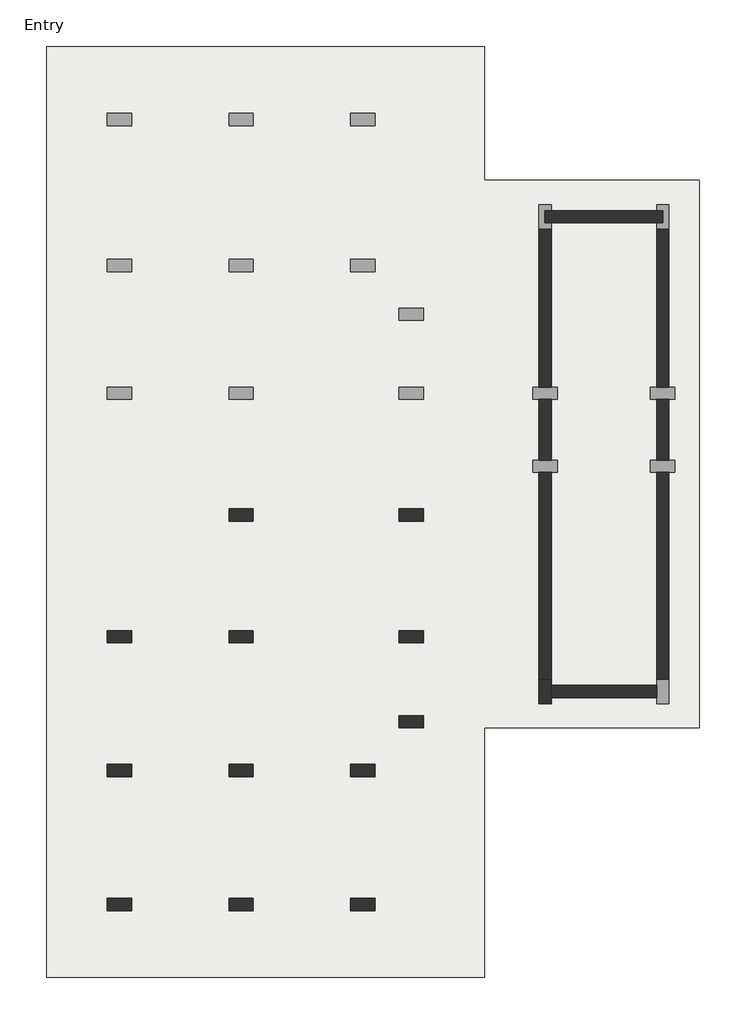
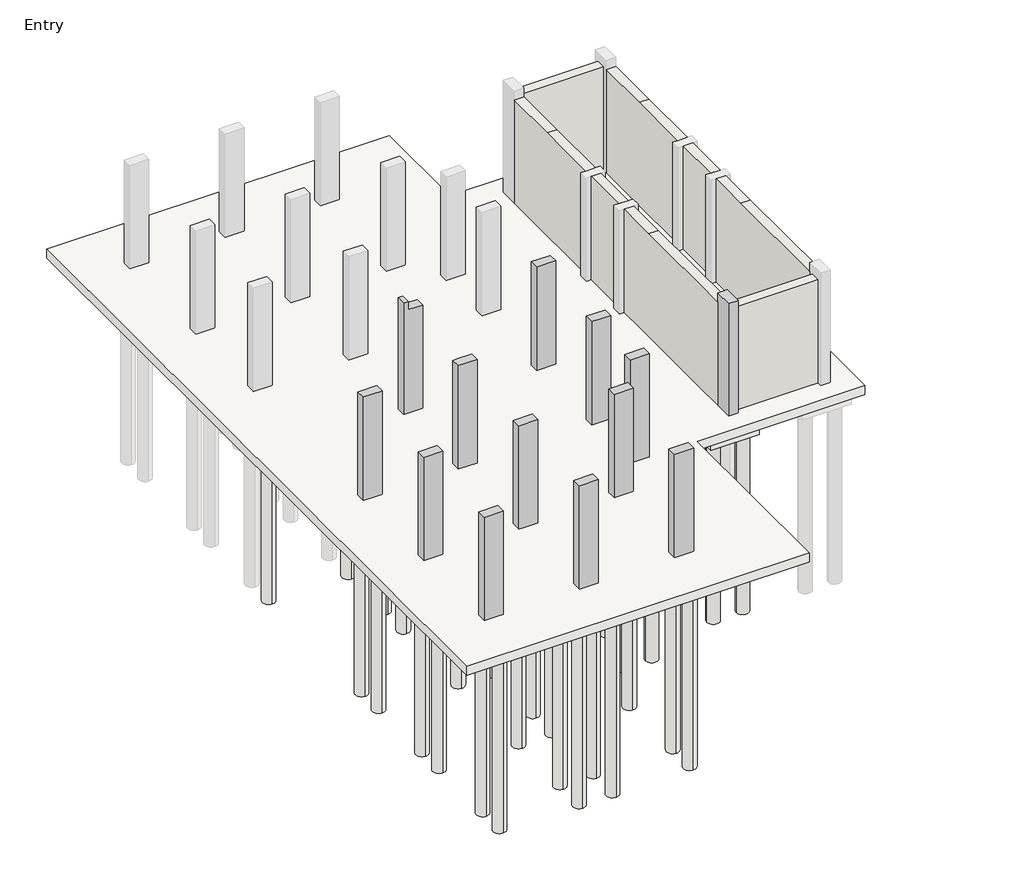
# One storey, part 1 of 2: 52 slabs, 13 columns, 8 walls.
"""IFC4 building model written with IfcOpenShell, lengths in millimetres."""

from ifc_helpers import new_model, si_unit, point, frame, frame_2d, origin, origin_with_axes, place, context, project, spatial, polyline, circle_curve, trimmed, segment, composite_curve, outline, extrude, faceted_brep, element, save

model = new_model("IFC4")

# Units and contexts
model_context = context("Model", 3, world=origin())
ifc_project = project(units=[si_unit("LENGTHUNIT", "METRE", prefix="MILLI")], contexts=[model_context])

# Site, building, storey
site = spatial("IfcSite", under=ifc_project)
building = spatial("IfcBuilding", under=site)
storey = spatial("IfcBuildingStorey", under=building, Name="Entry", Elevation=0.0)

# Columns
placement = place(None, origin())
element("IfcColumn", 1, ObjectType="Concrete-Rectangular-Column : 12 x 24", at=placement, inside=storey, context=model_context, shape_type="SweptSolid", body=[
    extrude(outline(polyline([(0.0, -25837.8572388), (0.0, -25228.2572388), (3505.2, -25228.2572388), (3505.2, -25685.4572388), (3784.6, -25685.4572388), (3784.6, -25837.8572388), (0.0, -25837.8572388)])), frame((0.0, 12810.8740068, 0.0), z_axis=(0.0, 1.0, 0.0), x_axis=(0.0, 0.0, 1.0)), (0.0, 0.0, 1.0), 304.8),
])
element("IfcColumn", 2, ObjectType="Concrete-Rectangular-Column : 12 x 24", at=placement, inside=storey, context=model_context, shape_type="SweptSolid", body=[
    extrude(outline(polyline([(-21570.6572388, 13115.6740068), (-20961.0572388, 13115.6740068), (-20961.0572388, 12810.8740068), (-21570.6572388, 12810.8740068), (-21570.6572388, 13115.6740068)])), origin_with_axes(), (0.0, 0.0, 1.0), 3505.2),
])
element("IfcColumn", 3, ObjectType="Concrete-Rectangular-Column : 12 x 24", at=placement, inside=storey, context=model_context, shape_type="SweptSolid", body=[
    extrude(outline(polyline([(-28885.8572388, 10067.6740068), (-28276.2572388, 10067.6740068), (-28276.2572388, 9762.8740068), (-28885.8572388, 9762.8740068), (-28885.8572388, 10067.6740068)])), origin_with_axes(), (0.0, 0.0, 1.0), 3505.2),
])
element("IfcColumn", 4, ObjectType="Concrete-Rectangular-Column : 12 x 24", at=placement, inside=storey, context=model_context, shape_type="Brep", body=[
    faceted_brep([(-25837.8572388, 10067.6740068, 0.0), (-25228.2572388, 10067.6740068, 0.0), (-25228.2572388, 9762.8740068, 0.0), (-25837.8572388, 9762.8740068, 0.0), (-25837.8572388, 10067.6740068, 3505.2), (-25685.4572388, 10067.6740068, 3505.2), (-25228.2572388, 10067.6740068, 3505.2), (-25228.2572388, 9762.8740068, 3505.2), (-25837.8572388, 9762.8740068, 3505.2)], [[[0, 1, 2, 3]], [[1, 0, 4, 5, 6]], [[2, 1, 6, 7]], [[3, 2, 7, 8]], [[0, 3, 8, 4]], [[6, 5, 4, 8, 7]]]),
])
element("IfcColumn", 5, ObjectType="Concrete-Rectangular-Column : 12 x 24", at=placement, inside=storey, context=model_context, shape_type="SweptSolid", body=[
    extrude(outline(polyline([(-21570.6572388, 10067.6740068), (-20961.0572388, 10067.6740068), (-20961.0572388, 9762.8740068), (-21570.6572388, 9762.8740068), (-21570.6572388, 10067.6740068)])), origin_with_axes(), (0.0, 0.0, 1.0), 3505.2),
])
element("IfcColumn", 6, ObjectType="Concrete-Rectangular-Column : 12 x 24", at=placement, inside=storey, context=model_context, shape_type="SweptSolid", body=[
    extrude(outline(polyline([(-21570.6572388, 7934.0740068), (-20961.0572388, 7934.0740068), (-20961.0572388, 7629.2740068), (-21570.6572388, 7629.2740068), (-21570.6572388, 7934.0740068)])), origin_with_axes(), (0.0, 0.0, 1.0), 3505.2),
])
element("IfcColumn", 7, ObjectType="Concrete-Rectangular-Column : 12 x 24", at=placement, inside=storey, context=model_context, shape_type="SweptSolid", body=[
    extrude(outline(polyline([(-28885.8572388, 6714.8740068), (-28276.2572388, 6714.8740068), (-28276.2572388, 6410.0740068), (-28885.8572388, 6410.0740068), (-28885.8572388, 6714.8740068)])), origin_with_axes(), (0.0, 0.0, 1.0), 3505.2),
])
element("IfcColumn", 8, ObjectType="Concrete-Rectangular-Column : 12 x 24", at=placement, inside=storey, context=model_context, shape_type="SweptSolid", body=[
    extrude(outline(polyline([(-25837.8572388, 6714.8740068), (-25228.2572388, 6714.8740068), (-25228.2572388, 6410.0740068), (-25837.8572388, 6410.0740068), (-25837.8572388, 6714.8740068)])), origin_with_axes(), (0.0, 0.0, 1.0), 3505.2),
])
element("IfcColumn", 9, ObjectType="Concrete-Rectangular-Column : 12 x 24", at=placement, inside=storey, context=model_context, shape_type="SweptSolid", body=[
    extrude(outline(polyline([(-22789.8572388, 6714.8740068), (-22180.2572388, 6714.8740068), (-22180.2572388, 6410.0740068), (-22789.8572388, 6410.0740068), (-22789.8572388, 6714.8740068)])), origin_with_axes(), (0.0, 0.0, 1.0), 3505.2),
])
element("IfcColumn", 10, ObjectType="Concrete-Rectangular-Column : 12 x 24", at=placement, inside=storey, context=model_context, shape_type="SweptSolid", body=[
    extrude(outline(polyline([(-28885.8572388, 3362.0740068), (-28276.2572388, 3362.0740068), (-28276.2572388, 3057.2740068), (-28885.8572388, 3057.2740068), (-28885.8572388, 3362.0740068)])), origin_with_axes(), (0.0, 0.0, 1.0), 3505.2),
])
element("IfcColumn", 11, ObjectType="Concrete-Rectangular-Column : 12 x 24", at=placement, inside=storey, context=model_context, shape_type="SweptSolid", body=[
    extrude(outline(polyline([(-25837.8572388, 3362.0740068), (-25228.2572388, 3362.0740068), (-25228.2572388, 3057.2740068), (-25837.8572388, 3057.2740068), (-25837.8572388, 3362.0740068)])), origin_with_axes(), (0.0, 0.0, 1.0), 3505.2),
])
element("IfcColumn", 12, ObjectType="Concrete-Rectangular-Column : 12 x 24", at=placement, inside=storey, context=model_context, shape_type="SweptSolid", body=[
    extrude(outline(polyline([(-22789.8572388, 3362.0740068), (-22180.2572388, 3362.0740068), (-22180.2572388, 3057.2740068), (-22789.8572388, 3057.2740068), (-22789.8572388, 3362.0740068)])), origin_with_axes(), (0.0, 0.0, 1.0), 3505.2),
])
element("IfcColumn", 13, ObjectType="Concrete-Rectangular-Column : 12 x 24", at=placement, inside=storey, context=model_context, shape_type="Brep", body=[
    faceted_brep([(-18065.4572388, 8238.8740068, 0.0), (-18065.4572388, 8848.4740068, 0.0), (-17760.6572388, 8848.4740068, 0.0), (-17760.6572388, 8696.0740068, 0.0), (-17760.6572388, 8391.2740068, 0.0), (-17760.6572388, 8238.8740068, 0.0), (-18065.4572388, 8238.8740068, 3810.0), (-18065.4572388, 8848.4740068, 3810.0), (-18065.4572388, 8848.4740068, 3505.2), (-17760.6572388, 8848.4740068, 3810.0), (-17760.6572388, 8848.4740068, 3505.2), (-17760.6572388, 8238.8740068, 3810.0)], [[[0, 1, 2, 3, 4, 5]], [[6, 7, 8, 1, 0]], [[7, 9, 10, 2, 1, 8]], [[9, 11, 5, 4, 3, 2, 10]], [[11, 6, 0, 5]], [[6, 11, 9, 7]]]),
])

# Slabs
element("IfcSlab", 14, ObjectType="12\" Foundation Slab", at=placement, inside=storey, context=model_context, shape_type="SweptSolid", body=[
    extrude(outline(polyline([(-19437.0572388, 24698.0740068), (-19437.0572388, 21345.2740068), (-14052.2572388, 21345.2740068), (-14052.2572388, 7629.2740068), (-19437.0572388, 7629.2740068), (-19437.0572388, 1380.8740068), (-30409.8572388, 1380.8740068), (-30409.8572388, 24698.0740068), (-19437.0572388, 24698.0740068)])), frame((0.0, 0.0, -304.8), z_axis=(0.0, 0.0, 1.0), x_axis=(1.0, 0.0, 0.0)), (0.0, 0.0, 1.0), 304.8),
])
element("IfcSlab", 15, ObjectType="Pile Cap-2 Pile : 31\"x61\"x35\"", at=placement, inside=storey, context=model_context, shape_type="SweptSolid", body=[
    extrude(outline(polyline([(-28987.4572388, 10689.9740068), (-28174.6572388, 10689.9740068), (-28174.6572388, 9140.5740068), (-28987.4572388, 9140.5740068), (-28987.4572388, 10689.9740068)])), frame((0.0, 0.0, -889.0), z_axis=(0.0, 0.0, 1.0), x_axis=(1.0, 0.0, 0.0)), (0.0, 0.0, 1.0), 584.2),
])
element("IfcSlab", 16, ObjectType="Pile Cap-2 Pile : 31\"x61\"x35\"", at=placement, inside=storey, context=model_context, shape_type="SweptSolid", body=[
    extrude(outline(polyline([(-28987.4572388, 7337.1740068), (-28174.6572388, 7337.1740068), (-28174.6572388, 5787.7740068), (-28987.4572388, 5787.7740068), (-28987.4572388, 7337.1740068)])), frame((0.0, 0.0, -889.0), z_axis=(0.0, 0.0, 1.0), x_axis=(1.0, 0.0, 0.0)), (0.0, 0.0, 1.0), 584.2),
])
element("IfcSlab", 17, ObjectType="Pile Cap-2 Pile : 31\"x61\"x35\"", at=placement, inside=storey, context=model_context, shape_type="SweptSolid", body=[
    extrude(outline(polyline([(-28987.4572388, 3984.3740068), (-28174.6572388, 3984.3740068), (-28174.6572388, 2434.9740068), (-28987.4572388, 2434.9740068), (-28987.4572388, 3984.3740068)])), frame((0.0, 0.0, -889.0), z_axis=(0.0, 0.0, 1.0), x_axis=(1.0, 0.0, 0.0)), (0.0, 0.0, 1.0), 584.2),
])
element("IfcSlab", 18, ObjectType="Pile Cap-2 Pile : 31\"x61\"x35\"", at=placement, inside=storey, context=model_context, shape_type="SweptSolid", body=[
    extrude(outline(polyline([(-22891.4572388, 3984.3740068), (-22078.6572388, 3984.3740068), (-22078.6572388, 2434.9740068), (-22891.4572388, 2434.9740068), (-22891.4572388, 3984.3740068)])), frame((0.0, 0.0, -889.0), z_axis=(0.0, 0.0, 1.0), x_axis=(1.0, 0.0, 0.0)), (0.0, 0.0, 1.0), 584.2),
])
element("IfcSlab", 19, ObjectType="Pile Cap-2 Pile : 31\"x61\"x35\"", at=placement, inside=storey, context=model_context, shape_type="SweptSolid", body=[
    extrude(outline(polyline([(-22891.4572388, 7337.1740068), (-22078.6572388, 7337.1740068), (-22078.6572388, 5787.7740068), (-22891.4572388, 5787.7740068), (-22891.4572388, 7337.1740068)])), frame((0.0, 0.0, -889.0), z_axis=(0.0, 0.0, 1.0), x_axis=(1.0, 0.0, 0.0)), (0.0, 0.0, 1.0), 584.2),
])
element("IfcSlab", 20, ObjectType="Pile Cap-2 Pile : 31\"x61\"x35\"", at=placement, inside=storey, context=model_context, shape_type="SweptSolid", body=[
    extrude(outline(polyline([(-21672.2572388, 10689.9740068), (-20859.4572388, 10689.9740068), (-20859.4572388, 9140.5740068), (-21672.2572388, 9140.5740068), (-21672.2572388, 10689.9740068)])), frame((0.0, 0.0, -889.0), z_axis=(0.0, 0.0, 1.0), x_axis=(1.0, 0.0, 0.0)), (0.0, 0.0, 1.0), 584.2),
])
element("IfcSlab", 21, ObjectType="Pile Cap-2 Pile : 31\"x61\"x35\"", at=placement, inside=storey, context=model_context, shape_type="SweptSolid", body=[
    extrude(outline(polyline([(-21672.2572388, 13737.9740068), (-20859.4572388, 13737.9740068), (-20859.4572388, 12188.5740068), (-21672.2572388, 12188.5740068), (-21672.2572388, 13737.9740068)])), frame((0.0, 0.0, -889.0), z_axis=(0.0, 0.0, 1.0), x_axis=(1.0, 0.0, 0.0)), (0.0, 0.0, 1.0), 584.2),
])
element("IfcSlab", 22, ObjectType="Pile Cap-2 Pile : 31\"x61\"x35\"", at=placement, inside=storey, context=model_context, shape_type="SweptSolid", body=[
    extrude(outline(polyline([(-17138.3572388, 8950.0740068), (-17138.3572388, 8137.2740068), (-18687.7572388, 8137.2740068), (-18687.7572388, 8950.0740068), (-17138.3572388, 8950.0740068)])), frame((0.0, 0.0, -889.0), z_axis=(0.0, 0.0, 1.0), x_axis=(1.0, 0.0, 0.0)), (0.0, 0.0, 1.0), 584.2),
])
element("IfcSlab", 23, ObjectType="Pile Cap-2 Pile : 31\"x61\"x35\"", at=placement, inside=storey, context=model_context, shape_type="SweptSolid", body=[
    extrude(outline(polyline([(-20491.1572388, 8188.0740068), (-20491.1572388, 7375.2740068), (-22040.5572388, 7375.2740068), (-22040.5572388, 8188.0740068), (-20491.1572388, 8188.0740068)])), frame((0.0, 0.0, -889.0), z_axis=(0.0, 0.0, 1.0), x_axis=(1.0, 0.0, 0.0)), (0.0, 0.0, 1.0), 584.2),
])
element("IfcSlab", 24, ObjectType="Pile Cap-4 Pile : 72\" x 72\" x35\"", at=placement, inside=storey, context=model_context, shape_type="SweptSolid", body=[
    extrude(outline(polyline([(-26447.4572388, 13877.6740068), (-24618.6572388, 13877.6740068), (-24618.6572388, 12048.8740068), (-26447.4572388, 12048.8740068), (-26447.4572388, 13877.6740068)])), frame((0.0, 0.0, -889.0), z_axis=(0.0, 0.0, 1.0), x_axis=(1.0, 0.0, 0.0)), (0.0, 0.0, 1.0), 584.2),
])
element("IfcSlab", 25, ObjectType="Pile Cap-4 Pile : 72\" x 72\" x35\"", at=placement, inside=storey, context=model_context, shape_type="SweptSolid", body=[
    extrude(outline(polyline([(-26447.4572388, 10829.6740068), (-24618.6572388, 10829.6740068), (-24618.6572388, 9000.8740068), (-26447.4572388, 9000.8740068), (-26447.4572388, 10829.6740068)])), frame((0.0, 0.0, -889.0), z_axis=(0.0, 0.0, 1.0), x_axis=(1.0, 0.0, 0.0)), (0.0, 0.0, 1.0), 584.2),
])
element("IfcSlab", 26, ObjectType="Pile Cap-4 Pile : 72\" x 72\" x35\"", at=placement, inside=storey, context=model_context, shape_type="SweptSolid", body=[
    extrude(outline(polyline([(-26447.4572388, 7476.8740068), (-24618.6572388, 7476.8740068), (-24618.6572388, 5648.0740068), (-26447.4572388, 5648.0740068), (-26447.4572388, 7476.8740068)])), frame((0.0, 0.0, -889.0), z_axis=(0.0, 0.0, 1.0), x_axis=(1.0, 0.0, 0.0)), (0.0, 0.0, 1.0), 584.2),
])
element("IfcSlab", 27, ObjectType="Pile Cap-4 Pile : 72\" x 72\" x35\"", at=placement, inside=storey, context=model_context, shape_type="SweptSolid", body=[
    extrude(outline(polyline([(-26447.4572388, 4124.0740068), (-24618.6572388, 4124.0740068), (-24618.6572388, 2295.2740068), (-26447.4572388, 2295.2740068), (-26447.4572388, 4124.0740068)])), frame((0.0, 0.0, -889.0), z_axis=(0.0, 0.0, 1.0), x_axis=(1.0, 0.0, 0.0)), (0.0, 0.0, 1.0), 584.2),
])
element("IfcSlab", 28, ObjectType="Pile-Steel Pipe : 16\" Diameter", at=placement, inside=storey, context=model_context, shape_type="SweptSolid", body=[
    extrude(outline(composite_curve([segment(trimmed(circle_curve(frame_2d((-26066.4572388, 15477.8740068)), 203.2), [point((-26066.4572388, 15274.6740068))], [point((-26066.4572388, 15681.0740068))], False, "CARTESIAN"), True, "CONTINUOUS"), segment(trimmed(circle_curve(frame_2d((-26066.4572388, 15477.8740068)), 203.2), [point((-26066.4572388, 15681.0740068))], [point((-26066.4572388, 15274.6740068))], False, "CARTESIAN"), True, "CONTINUOUS")], self_intersect=False)), frame((0.0, 0.0, -6985.0), z_axis=(0.0, 0.0, 1.0), x_axis=(1.0, 0.0, 0.0)), (0.0, 0.0, 1.0), 6096.0),
])
element("IfcSlab", 29, ObjectType="Pile-Steel Pipe : 16\" Diameter", at=placement, inside=storey, context=model_context, shape_type="SweptSolid", body=[
    extrude(outline(composite_curve([segment(trimmed(circle_curve(frame_2d((-24999.6572388, 15477.8740068)), 203.2), [point((-24999.6572388, 15274.6740068))], [point((-24999.6572388, 15681.0740068))], False, "CARTESIAN"), True, "CONTINUOUS"), segment(trimmed(circle_curve(frame_2d((-24999.6572388, 15477.8740068)), 203.2), [point((-24999.6572388, 15681.0740068))], [point((-24999.6572388, 15274.6740068))], False, "CARTESIAN"), True, "CONTINUOUS")], self_intersect=False)), frame((0.0, 0.0, -6985.0), z_axis=(0.0, 0.0, 1.0), x_axis=(1.0, 0.0, 0.0)), (0.0, 0.0, 1.0), 6096.0),
])
element("IfcSlab", 30, ObjectType="Pile-Steel Pipe : 16\" Diameter", at=placement, inside=storey, context=model_context, shape_type="SweptSolid", body=[
    extrude(outline(composite_curve([segment(trimmed(circle_curve(frame_2d((-26066.4572388, 12429.8740068)), 203.2), [point((-26066.4572388, 12226.6740068))], [point((-26066.4572388, 12633.0740068))], False, "CARTESIAN"), True, "CONTINUOUS"), segment(trimmed(circle_curve(frame_2d((-26066.4572388, 12429.8740068)), 203.2), [point((-26066.4572388, 12633.0740068))], [point((-26066.4572388, 12226.6740068))], False, "CARTESIAN"), True, "CONTINUOUS")], self_intersect=False)), frame((0.0, 0.0, -6985.0), z_axis=(0.0, 0.0, 1.0), x_axis=(1.0, 0.0, 0.0)), (0.0, 0.0, 1.0), 6096.0),
])
element("IfcSlab", 31, ObjectType="Pile-Steel Pipe : 16\" Diameter", at=placement, inside=storey, context=model_context, shape_type="SweptSolid", body=[
    extrude(outline(composite_curve([segment(trimmed(circle_curve(frame_2d((-24999.6572388, 12429.8740068)), 203.2), [point((-24999.6572388, 12226.6740068))], [point((-24999.6572388, 12633.0740068))], False, "CARTESIAN"), True, "CONTINUOUS"), segment(trimmed(circle_curve(frame_2d((-24999.6572388, 12429.8740068)), 203.2), [point((-24999.6572388, 12633.0740068))], [point((-24999.6572388, 12226.6740068))], False, "CARTESIAN"), True, "CONTINUOUS")], self_intersect=False)), frame((0.0, 0.0, -6985.0), z_axis=(0.0, 0.0, 1.0), x_axis=(1.0, 0.0, 0.0)), (0.0, 0.0, 1.0), 6096.0),
])
element("IfcSlab", 32, ObjectType="Pile-Steel Pipe : 16\" Diameter", at=placement, inside=storey, context=model_context, shape_type="SweptSolid", body=[
    extrude(outline(composite_curve([segment(trimmed(circle_curve(frame_2d((-24999.6572388, 13496.6740068)), 203.2), [point((-24999.6572388, 13293.4740068))], [point((-24999.6572388, 13699.8740068))], False, "CARTESIAN"), True, "CONTINUOUS"), segment(trimmed(circle_curve(frame_2d((-24999.6572388, 13496.6740068)), 203.2), [point((-24999.6572388, 13699.8740068))], [point((-24999.6572388, 13293.4740068))], False, "CARTESIAN"), True, "CONTINUOUS")], self_intersect=False)), frame((0.0, 0.0, -6985.0), z_axis=(0.0, 0.0, 1.0), x_axis=(1.0, 0.0, 0.0)), (0.0, 0.0, 1.0), 6096.0),
])
element("IfcSlab", 33, ObjectType="Pile-Steel Pipe : 16\" Diameter", at=placement, inside=storey, context=model_context, shape_type="SweptSolid", body=[
    extrude(outline(composite_curve([segment(trimmed(circle_curve(frame_2d((-26066.4572388, 13496.6740068)), 203.2), [point((-26066.4572388, 13293.4740068))], [point((-26066.4572388, 13699.8740068))], False, "CARTESIAN"), True, "CONTINUOUS"), segment(trimmed(circle_curve(frame_2d((-26066.4572388, 13496.6740068)), 203.2), [point((-26066.4572388, 13699.8740068))], [point((-26066.4572388, 13293.4740068))], False, "CARTESIAN"), True, "CONTINUOUS")], self_intersect=False)), frame((0.0, 0.0, -6985.0), z_axis=(0.0, 0.0, 1.0), x_axis=(1.0, 0.0, 0.0)), (0.0, 0.0, 1.0), 6096.0),
])
element("IfcSlab", 34, ObjectType="Pile-Steel Pipe : 16\" Diameter", at=placement, inside=storey, context=model_context, shape_type="SweptSolid", body=[
    extrude(outline(composite_curve([segment(trimmed(circle_curve(frame_2d((-26066.4572388, 9381.8740068)), 203.2), [point((-26066.4572388, 9178.6740068))], [point((-26066.4572388, 9585.0740068))], False, "CARTESIAN"), True, "CONTINUOUS"), segment(trimmed(circle_curve(frame_2d((-26066.4572388, 9381.8740068)), 203.2), [point((-26066.4572388, 9585.0740068))], [point((-26066.4572388, 9178.6740068))], False, "CARTESIAN"), True, "CONTINUOUS")], self_intersect=False)), frame((0.0, 0.0, -6985.0), z_axis=(0.0, 0.0, 1.0), x_axis=(1.0, 0.0, 0.0)), (0.0, 0.0, 1.0), 6096.0),
])
element("IfcSlab", 35, ObjectType="Pile-Steel Pipe : 16\" Diameter", at=placement, inside=storey, context=model_context, shape_type="SweptSolid", body=[
    extrude(outline(composite_curve([segment(trimmed(circle_curve(frame_2d((-24999.6572388, 9381.8740068)), 203.2), [point((-24999.6572388, 9178.6740068))], [point((-24999.6572388, 9585.0740068))], False, "CARTESIAN"), True, "CONTINUOUS"), segment(trimmed(circle_curve(frame_2d((-24999.6572388, 9381.8740068)), 203.2), [point((-24999.6572388, 9585.0740068))], [point((-24999.6572388, 9178.6740068))], False, "CARTESIAN"), True, "CONTINUOUS")], self_intersect=False)), frame((0.0, 0.0, -6985.0), z_axis=(0.0, 0.0, 1.0), x_axis=(1.0, 0.0, 0.0)), (0.0, 0.0, 1.0), 6096.0),
])
element("IfcSlab", 36, ObjectType="Pile-Steel Pipe : 16\" Diameter", at=placement, inside=storey, context=model_context, shape_type="SweptSolid", body=[
    extrude(outline(composite_curve([segment(trimmed(circle_curve(frame_2d((-24999.6572388, 10448.6740068)), 203.2), [point((-24999.6572388, 10245.4740068))], [point((-24999.6572388, 10651.8740068))], False, "CARTESIAN"), True, "CONTINUOUS"), segment(trimmed(circle_curve(frame_2d((-24999.6572388, 10448.6740068)), 203.2), [point((-24999.6572388, 10651.8740068))], [point((-24999.6572388, 10245.4740068))], False, "CARTESIAN"), True, "CONTINUOUS")], self_intersect=False)), frame((0.0, 0.0, -6985.0), z_axis=(0.0, 0.0, 1.0), x_axis=(1.0, 0.0, 0.0)), (0.0, 0.0, 1.0), 6096.0),
])
element("IfcSlab", 37, ObjectType="Pile-Steel Pipe : 16\" Diameter", at=placement, inside=storey, context=model_context, shape_type="SweptSolid", body=[
    extrude(outline(composite_curve([segment(trimmed(circle_curve(frame_2d((-26066.4572388, 10448.6740068)), 203.2), [point((-26066.4572388, 10245.4740068))], [point((-26066.4572388, 10651.8740068))], False, "CARTESIAN"), True, "CONTINUOUS"), segment(trimmed(circle_curve(frame_2d((-26066.4572388, 10448.6740068)), 203.2), [point((-26066.4572388, 10651.8740068))], [point((-26066.4572388, 10245.4740068))], False, "CARTESIAN"), True, "CONTINUOUS")], self_intersect=False)), frame((0.0, 0.0, -6985.0), z_axis=(0.0, 0.0, 1.0), x_axis=(1.0, 0.0, 0.0)), (0.0, 0.0, 1.0), 6096.0),
])
element("IfcSlab", 38, ObjectType="Pile-Steel Pipe : 16\" Diameter", at=placement, inside=storey, context=model_context, shape_type="SweptSolid", body=[
    extrude(outline(composite_curve([segment(trimmed(circle_curve(frame_2d((-26066.4572388, 6029.0740068)), 203.2), [point((-26066.4572388, 5825.8740068))], [point((-26066.4572388, 6232.2740068))], False, "CARTESIAN"), True, "CONTINUOUS"), segment(trimmed(circle_curve(frame_2d((-26066.4572388, 6029.0740068)), 203.2), [point((-26066.4572388, 6232.2740068))], [point((-26066.4572388, 5825.8740068))], False, "CARTESIAN"), True, "CONTINUOUS")], self_intersect=False)), frame((0.0, 0.0, -6985.0), z_axis=(0.0, 0.0, 1.0), x_axis=(1.0, 0.0, 0.0)), (0.0, 0.0, 1.0), 6096.0),
])
element("IfcSlab", 39, ObjectType="Pile-Steel Pipe : 16\" Diameter", at=placement, inside=storey, context=model_context, shape_type="SweptSolid", body=[
    extrude(outline(composite_curve([segment(trimmed(circle_curve(frame_2d((-24999.6572388, 6029.0740068)), 203.2), [point((-24999.6572388, 5825.8740068))], [point((-24999.6572388, 6232.2740068))], False, "CARTESIAN"), True, "CONTINUOUS"), segment(trimmed(circle_curve(frame_2d((-24999.6572388, 6029.0740068)), 203.2), [point((-24999.6572388, 6232.2740068))], [point((-24999.6572388, 5825.8740068))], False, "CARTESIAN"), True, "CONTINUOUS")], self_intersect=False)), frame((0.0, 0.0, -6985.0), z_axis=(0.0, 0.0, 1.0), x_axis=(1.0, 0.0, 0.0)), (0.0, 0.0, 1.0), 6096.0),
])
element("IfcSlab", 40, ObjectType="Pile-Steel Pipe : 16\" Diameter", at=placement, inside=storey, context=model_context, shape_type="SweptSolid", body=[
    extrude(outline(composite_curve([segment(trimmed(circle_curve(frame_2d((-24999.6572388, 7095.8740068)), 203.2), [point((-24999.6572388, 6892.6740068))], [point((-24999.6572388, 7299.0740068))], False, "CARTESIAN"), True, "CONTINUOUS"), segment(trimmed(circle_curve(frame_2d((-24999.6572388, 7095.8740068)), 203.2), [point((-24999.6572388, 7299.0740068))], [point((-24999.6572388, 6892.6740068))], False, "CARTESIAN"), True, "CONTINUOUS")], self_intersect=False)), frame((0.0, 0.0, -6985.0), z_axis=(0.0, 0.0, 1.0), x_axis=(1.0, 0.0, 0.0)), (0.0, 0.0, 1.0), 6096.0),
])
element("IfcSlab", 41, ObjectType="Pile-Steel Pipe : 16\" Diameter", at=placement, inside=storey, context=model_context, shape_type="SweptSolid", body=[
    extrude(outline(composite_curve([segment(trimmed(circle_curve(frame_2d((-26066.4572388, 7095.8740068)), 203.2), [point((-26066.4572388, 6892.6740068))], [point((-26066.4572388, 7299.0740068))], False, "CARTESIAN"), True, "CONTINUOUS"), segment(trimmed(circle_curve(frame_2d((-26066.4572388, 7095.8740068)), 203.2), [point((-26066.4572388, 7299.0740068))], [point((-26066.4572388, 6892.6740068))], False, "CARTESIAN"), True, "CONTINUOUS")], self_intersect=False)), frame((0.0, 0.0, -6985.0), z_axis=(0.0, 0.0, 1.0), x_axis=(1.0, 0.0, 0.0)), (0.0, 0.0, 1.0), 6096.0),
])
element("IfcSlab", 42, ObjectType="Pile-Steel Pipe : 16\" Diameter", at=placement, inside=storey, context=model_context, shape_type="SweptSolid", body=[
    extrude(outline(composite_curve([segment(trimmed(circle_curve(frame_2d((-26066.4572388, 2676.2740068)), 203.2), [point((-26066.4572388, 2473.0740068))], [point((-26066.4572388, 2879.4740068))], False, "CARTESIAN"), True, "CONTINUOUS"), segment(trimmed(circle_curve(frame_2d((-26066.4572388, 2676.2740068)), 203.2), [point((-26066.4572388, 2879.4740068))], [point((-26066.4572388, 2473.0740068))], False, "CARTESIAN"), True, "CONTINUOUS")], self_intersect=False)), frame((0.0, 0.0, -6985.0), z_axis=(0.0, 0.0, 1.0), x_axis=(1.0, 0.0, 0.0)), (0.0, 0.0, 1.0), 6096.0),
])
element("IfcSlab", 43, ObjectType="Pile-Steel Pipe : 16\" Diameter", at=placement, inside=storey, context=model_context, shape_type="SweptSolid", body=[
    extrude(outline(composite_curve([segment(trimmed(circle_curve(frame_2d((-24999.6572388, 2676.2740068)), 203.2), [point((-24999.6572388, 2473.0740068))], [point((-24999.6572388, 2879.4740068))], False, "CARTESIAN"), True, "CONTINUOUS"), segment(trimmed(circle_curve(frame_2d((-24999.6572388, 2676.2740068)), 203.2), [point((-24999.6572388, 2879.4740068))], [point((-24999.6572388, 2473.0740068))], False, "CARTESIAN"), True, "CONTINUOUS")], self_intersect=False)), frame((0.0, 0.0, -6985.0), z_axis=(0.0, 0.0, 1.0), x_axis=(1.0, 0.0, 0.0)), (0.0, 0.0, 1.0), 6096.0),
])
element("IfcSlab", 44, ObjectType="Pile-Steel Pipe : 16\" Diameter", at=placement, inside=storey, context=model_context, shape_type="SweptSolid", body=[
    extrude(outline(composite_curve([segment(trimmed(circle_curve(frame_2d((-24999.6572388, 3743.0740068)), 203.2), [point((-24999.6572388, 3539.8740068))], [point((-24999.6572388, 3946.2740068))], False, "CARTESIAN"), True, "CONTINUOUS"), segment(trimmed(circle_curve(frame_2d((-24999.6572388, 3743.0740068)), 203.2), [point((-24999.6572388, 3946.2740068))], [point((-24999.6572388, 3539.8740068))], False, "CARTESIAN"), True, "CONTINUOUS")], self_intersect=False)), frame((0.0, 0.0, -6985.0), z_axis=(0.0, 0.0, 1.0), x_axis=(1.0, 0.0, 0.0)), (0.0, 0.0, 1.0), 6096.0),
])
element("IfcSlab", 45, ObjectType="Pile-Steel Pipe : 16\" Diameter", at=placement, inside=storey, context=model_context, shape_type="SweptSolid", body=[
    extrude(outline(composite_curve([segment(trimmed(circle_curve(frame_2d((-26066.4572388, 3743.0740068)), 203.2), [point((-26066.4572388, 3539.8740068))], [point((-26066.4572388, 3946.2740068))], False, "CARTESIAN"), True, "CONTINUOUS"), segment(trimmed(circle_curve(frame_2d((-26066.4572388, 3743.0740068)), 203.2), [point((-26066.4572388, 3946.2740068))], [point((-26066.4572388, 3539.8740068))], False, "CARTESIAN"), True, "CONTINUOUS")], self_intersect=False)), frame((0.0, 0.0, -6985.0), z_axis=(0.0, 0.0, 1.0), x_axis=(1.0, 0.0, 0.0)), (0.0, 0.0, 1.0), 6096.0),
])
element("IfcSlab", 46, ObjectType="Pile-Steel Pipe : 16\" Diameter", at=placement, inside=storey, context=model_context, shape_type="SweptSolid", body=[
    extrude(outline(composite_curve([segment(trimmed(circle_curve(frame_2d((-28581.0572388, 15541.3740068)), 203.2), [point((-28581.0572388, 15338.1740068))], [point((-28581.0572388, 15744.5740068))], False, "CARTESIAN"), True, "CONTINUOUS"), segment(trimmed(circle_curve(frame_2d((-28581.0572388, 15541.3740068)), 203.2), [point((-28581.0572388, 15744.5740068))], [point((-28581.0572388, 15338.1740068))], False, "CARTESIAN"), True, "CONTINUOUS")], self_intersect=False)), frame((0.0, 0.0, -6985.0), z_axis=(0.0, 0.0, 1.0), x_axis=(1.0, 0.0, 0.0)), (0.0, 0.0, 1.0), 6096.0),
])
element("IfcSlab", 47, ObjectType="Pile-Steel Pipe : 16\" Diameter", at=placement, inside=storey, context=model_context, shape_type="SweptSolid", body=[
    extrude(outline(composite_curve([segment(trimmed(circle_curve(frame_2d((-28581.0572388, 9445.3740068)), 203.2), [point((-28581.0572388, 9242.1740068))], [point((-28581.0572388, 9648.5740068))], False, "CARTESIAN"), True, "CONTINUOUS"), segment(trimmed(circle_curve(frame_2d((-28581.0572388, 9445.3740068)), 203.2), [point((-28581.0572388, 9648.5740068))], [point((-28581.0572388, 9242.1740068))], False, "CARTESIAN"), True, "CONTINUOUS")], self_intersect=False)), frame((0.0, 0.0, -6985.0), z_axis=(0.0, 0.0, 1.0), x_axis=(1.0, 0.0, 0.0)), (0.0, 0.0, 1.0), 6096.0),
])
element("IfcSlab", 48, ObjectType="Pile-Steel Pipe : 16\" Diameter", at=placement, inside=storey, context=model_context, shape_type="SweptSolid", body=[
    extrude(outline(composite_curve([segment(trimmed(circle_curve(frame_2d((-28581.0572388, 10385.1740068)), 203.2), [point((-28581.0572388, 10181.9740068))], [point((-28581.0572388, 10588.3740068))], False, "CARTESIAN"), True, "CONTINUOUS"), segment(trimmed(circle_curve(frame_2d((-28581.0572388, 10385.1740068)), 203.2), [point((-28581.0572388, 10588.3740068))], [point((-28581.0572388, 10181.9740068))], False, "CARTESIAN"), True, "CONTINUOUS")], self_intersect=False)), frame((0.0, 0.0, -6985.0), z_axis=(0.0, 0.0, 1.0), x_axis=(1.0, 0.0, 0.0)), (0.0, 0.0, 1.0), 6096.0),
])
element("IfcSlab", 49, ObjectType="Pile-Steel Pipe : 16\" Diameter", at=placement, inside=storey, context=model_context, shape_type="SweptSolid", body=[
    extrude(outline(composite_curve([segment(trimmed(circle_curve(frame_2d((-28581.0572388, 6092.5740068)), 203.2), [point((-28581.0572388, 5889.3740068))], [point((-28581.0572388, 6295.7740068))], False, "CARTESIAN"), True, "CONTINUOUS"), segment(trimmed(circle_curve(frame_2d((-28581.0572388, 6092.5740068)), 203.2), [point((-28581.0572388, 6295.7740068))], [point((-28581.0572388, 5889.3740068))], False, "CARTESIAN"), True, "CONTINUOUS")], self_intersect=False)), frame((0.0, 0.0, -6985.0), z_axis=(0.0, 0.0, 1.0), x_axis=(1.0, 0.0, 0.0)), (0.0, 0.0, 1.0), 6096.0),
])
element("IfcSlab", 50, ObjectType="Pile-Steel Pipe : 16\" Diameter", at=placement, inside=storey, context=model_context, shape_type="SweptSolid", body=[
    extrude(outline(composite_curve([segment(trimmed(circle_curve(frame_2d((-28581.0572388, 7032.3740068)), 203.2), [point((-28581.0572388, 6829.1740068))], [point((-28581.0572388, 7235.5740068))], False, "CARTESIAN"), True, "CONTINUOUS"), segment(trimmed(circle_curve(frame_2d((-28581.0572388, 7032.3740068)), 203.2), [point((-28581.0572388, 7235.5740068))], [point((-28581.0572388, 6829.1740068))], False, "CARTESIAN"), True, "CONTINUOUS")], self_intersect=False)), frame((0.0, 0.0, -6985.0), z_axis=(0.0, 0.0, 1.0), x_axis=(1.0, 0.0, 0.0)), (0.0, 0.0, 1.0), 6096.0),
])
element("IfcSlab", 51, ObjectType="Pile-Steel Pipe : 16\" Diameter", at=placement, inside=storey, context=model_context, shape_type="SweptSolid", body=[
    extrude(outline(composite_curve([segment(trimmed(circle_curve(frame_2d((-28581.0572388, 2739.7740068)), 203.2), [point((-28581.0572388, 2536.5740068))], [point((-28581.0572388, 2942.9740068))], False, "CARTESIAN"), True, "CONTINUOUS"), segment(trimmed(circle_curve(frame_2d((-28581.0572388, 2739.7740068)), 203.2), [point((-28581.0572388, 2942.9740068))], [point((-28581.0572388, 2536.5740068))], False, "CARTESIAN"), True, "CONTINUOUS")], self_intersect=False)), frame((0.0, 0.0, -6985.0), z_axis=(0.0, 0.0, 1.0), x_axis=(1.0, 0.0, 0.0)), (0.0, 0.0, 1.0), 6096.0),
])
element("IfcSlab", 52, ObjectType="Pile-Steel Pipe : 16\" Diameter", at=placement, inside=storey, context=model_context, shape_type="SweptSolid", body=[
    extrude(outline(composite_curve([segment(trimmed(circle_curve(frame_2d((-28581.0572388, 3679.5740068)), 203.2), [point((-28581.0572388, 3476.3740068))], [point((-28581.0572388, 3882.7740068))], False, "CARTESIAN"), True, "CONTINUOUS"), segment(trimmed(circle_curve(frame_2d((-28581.0572388, 3679.5740068)), 203.2), [point((-28581.0572388, 3882.7740068))], [point((-28581.0572388, 3476.3740068))], False, "CARTESIAN"), True, "CONTINUOUS")], self_intersect=False)), frame((0.0, 0.0, -6985.0), z_axis=(0.0, 0.0, 1.0), x_axis=(1.0, 0.0, 0.0)), (0.0, 0.0, 1.0), 6096.0),
])
element("IfcSlab", 53, ObjectType="Pile-Steel Pipe : 16\" Diameter", at=placement, inside=storey, context=model_context, shape_type="SweptSolid", body=[
    extrude(outline(composite_curve([segment(trimmed(circle_curve(frame_2d((-22485.0572388, 2739.7740068)), 203.2), [point((-22485.0572388, 2536.5740068))], [point((-22485.0572388, 2942.9740068))], False, "CARTESIAN"), True, "CONTINUOUS"), segment(trimmed(circle_curve(frame_2d((-22485.0572388, 2739.7740068)), 203.2), [point((-22485.0572388, 2942.9740068))], [point((-22485.0572388, 2536.5740068))], False, "CARTESIAN"), True, "CONTINUOUS")], self_intersect=False)), frame((0.0, 0.0, -6985.0), z_axis=(0.0, 0.0, 1.0), x_axis=(1.0, 0.0, 0.0)), (0.0, 0.0, 1.0), 6096.0),
])
element("IfcSlab", 54, ObjectType="Pile-Steel Pipe : 16\" Diameter", at=placement, inside=storey, context=model_context, shape_type="SweptSolid", body=[
    extrude(outline(composite_curve([segment(trimmed(circle_curve(frame_2d((-22485.0572388, 3679.5740068)), 203.2), [point((-22485.0572388, 3476.3740068))], [point((-22485.0572388, 3882.7740068))], False, "CARTESIAN"), True, "CONTINUOUS"), segment(trimmed(circle_curve(frame_2d((-22485.0572388, 3679.5740068)), 203.2), [point((-22485.0572388, 3882.7740068))], [point((-22485.0572388, 3476.3740068))], False, "CARTESIAN"), True, "CONTINUOUS")], self_intersect=False)), frame((0.0, 0.0, -6985.0), z_axis=(0.0, 0.0, 1.0), x_axis=(1.0, 0.0, 0.0)), (0.0, 0.0, 1.0), 6096.0),
])
element("IfcSlab", 55, ObjectType="Pile-Steel Pipe : 16\" Diameter", at=placement, inside=storey, context=model_context, shape_type="SweptSolid", body=[
    extrude(outline(composite_curve([segment(trimmed(circle_curve(frame_2d((-22485.0572388, 6092.5740068)), 203.2), [point((-22485.0572388, 5889.3740068))], [point((-22485.0572388, 6295.7740068))], False, "CARTESIAN"), True, "CONTINUOUS"), segment(trimmed(circle_curve(frame_2d((-22485.0572388, 6092.5740068)), 203.2), [point((-22485.0572388, 6295.7740068))], [point((-22485.0572388, 5889.3740068))], False, "CARTESIAN"), True, "CONTINUOUS")], self_intersect=False)), frame((0.0, 0.0, -6985.0), z_axis=(0.0, 0.0, 1.0), x_axis=(1.0, 0.0, 0.0)), (0.0, 0.0, 1.0), 6096.0),
])
element("IfcSlab", 56, ObjectType="Pile-Steel Pipe : 16\" Diameter", at=placement, inside=storey, context=model_context, shape_type="SweptSolid", body=[
    extrude(outline(composite_curve([segment(trimmed(circle_curve(frame_2d((-22485.0572388, 7032.3740068)), 203.2), [point((-22485.0572388, 6829.1740068))], [point((-22485.0572388, 7235.5740068))], False, "CARTESIAN"), True, "CONTINUOUS"), segment(trimmed(circle_curve(frame_2d((-22485.0572388, 7032.3740068)), 203.2), [point((-22485.0572388, 7235.5740068))], [point((-22485.0572388, 6829.1740068))], False, "CARTESIAN"), True, "CONTINUOUS")], self_intersect=False)), frame((0.0, 0.0, -6985.0), z_axis=(0.0, 0.0, 1.0), x_axis=(1.0, 0.0, 0.0)), (0.0, 0.0, 1.0), 6096.0),
])
element("IfcSlab", 57, ObjectType="Pile-Steel Pipe : 16\" Diameter", at=placement, inside=storey, context=model_context, shape_type="SweptSolid", body=[
    extrude(outline(composite_curve([segment(trimmed(circle_curve(frame_2d((-21265.8572388, 9445.3740068)), 203.2), [point((-21265.8572388, 9242.1740068))], [point((-21265.8572388, 9648.5740068))], False, "CARTESIAN"), True, "CONTINUOUS"), segment(trimmed(circle_curve(frame_2d((-21265.8572388, 9445.3740068)), 203.2), [point((-21265.8572388, 9648.5740068))], [point((-21265.8572388, 9242.1740068))], False, "CARTESIAN"), True, "CONTINUOUS")], self_intersect=False)), frame((0.0, 0.0, -6985.0), z_axis=(0.0, 0.0, 1.0), x_axis=(1.0, 0.0, 0.0)), (0.0, 0.0, 1.0), 6096.0),
])
element("IfcSlab", 58, ObjectType="Pile-Steel Pipe : 16\" Diameter", at=placement, inside=storey, context=model_context, shape_type="SweptSolid", body=[
    extrude(outline(composite_curve([segment(trimmed(circle_curve(frame_2d((-21265.8572388, 10385.1740068)), 203.2), [point((-21265.8572388, 10181.9740068))], [point((-21265.8572388, 10588.3740068))], False, "CARTESIAN"), True, "CONTINUOUS"), segment(trimmed(circle_curve(frame_2d((-21265.8572388, 10385.1740068)), 203.2), [point((-21265.8572388, 10588.3740068))], [point((-21265.8572388, 10181.9740068))], False, "CARTESIAN"), True, "CONTINUOUS")], self_intersect=False)), frame((0.0, 0.0, -6985.0), z_axis=(0.0, 0.0, 1.0), x_axis=(1.0, 0.0, 0.0)), (0.0, 0.0, 1.0), 6096.0),
])
element("IfcSlab", 59, ObjectType="Pile-Steel Pipe : 16\" Diameter", at=placement, inside=storey, context=model_context, shape_type="SweptSolid", body=[
    extrude(outline(composite_curve([segment(trimmed(circle_curve(frame_2d((-21265.8572388, 12493.3740068)), 203.2), [point((-21265.8572388, 12290.1740068))], [point((-21265.8572388, 12696.5740068))], False, "CARTESIAN"), True, "CONTINUOUS"), segment(trimmed(circle_curve(frame_2d((-21265.8572388, 12493.3740068)), 203.2), [point((-21265.8572388, 12696.5740068))], [point((-21265.8572388, 12290.1740068))], False, "CARTESIAN"), True, "CONTINUOUS")], self_intersect=False)), frame((0.0, 0.0, -6985.0), z_axis=(0.0, 0.0, 1.0), x_axis=(1.0, 0.0, 0.0)), (0.0, 0.0, 1.0), 6096.0),
])
element("IfcSlab", 60, ObjectType="Pile-Steel Pipe : 16\" Diameter", at=placement, inside=storey, context=model_context, shape_type="SweptSolid", body=[
    extrude(outline(composite_curve([segment(trimmed(circle_curve(frame_2d((-21265.8572388, 13433.1740068)), 203.2), [point((-21265.8572388, 13229.9740068))], [point((-21265.8572388, 13636.3740068))], False, "CARTESIAN"), True, "CONTINUOUS"), segment(trimmed(circle_curve(frame_2d((-21265.8572388, 13433.1740068)), 203.2), [point((-21265.8572388, 13636.3740068))], [point((-21265.8572388, 13229.9740068))], False, "CARTESIAN"), True, "CONTINUOUS")], self_intersect=False)), frame((0.0, 0.0, -6985.0), z_axis=(0.0, 0.0, 1.0), x_axis=(1.0, 0.0, 0.0)), (0.0, 0.0, 1.0), 6096.0),
])
element("IfcSlab", 61, ObjectType="Pile-Steel Pipe : 16\" Diameter", at=placement, inside=storey, context=model_context, shape_type="SweptSolid", body=[
    extrude(outline(composite_curve([segment(trimmed(circle_curve(frame_2d((-21265.8572388, 15541.3740068)), 203.2), [point((-21265.8572388, 15338.1740068))], [point((-21265.8572388, 15744.5740068))], False, "CARTESIAN"), True, "CONTINUOUS"), segment(trimmed(circle_curve(frame_2d((-21265.8572388, 15541.3740068)), 203.2), [point((-21265.8572388, 15744.5740068))], [point((-21265.8572388, 15338.1740068))], False, "CARTESIAN"), True, "CONTINUOUS")], self_intersect=False)), frame((0.0, 0.0, -6985.0), z_axis=(0.0, 0.0, 1.0), x_axis=(1.0, 0.0, 0.0)), (0.0, 0.0, 1.0), 6096.0),
])
element("IfcSlab", 62, ObjectType="Pile-Steel Pipe : 16\" Diameter", at=placement, inside=storey, context=model_context, shape_type="SweptSolid", body=[
    extrude(outline(composite_curve([segment(trimmed(circle_curve(frame_2d((-18382.9572388, 8543.6740068)), 203.2), [point((-18586.1572388, 8543.6740068))], [point((-18179.7572388, 8543.6740068))], False, "CARTESIAN"), True, "CONTINUOUS"), segment(trimmed(circle_curve(frame_2d((-18382.9572388, 8543.6740068)), 203.2), [point((-18179.7572388, 8543.6740068))], [point((-18586.1572388, 8543.6740068))], False, "CARTESIAN"), True, "CONTINUOUS")], self_intersect=False)), frame((0.0, 0.0, -6985.0), z_axis=(0.0, 0.0, 1.0), x_axis=(1.0, 0.0, 0.0)), (0.0, 0.0, 1.0), 6096.0),
])
element("IfcSlab", 63, ObjectType="Pile-Steel Pipe : 16\" Diameter", at=placement, inside=storey, context=model_context, shape_type="SweptSolid", body=[
    extrude(outline(composite_curve([segment(trimmed(circle_curve(frame_2d((-17443.1572388, 8543.6740068)), 203.2), [point((-17646.3572388, 8543.6740068))], [point((-17239.9572388, 8543.6740068))], False, "CARTESIAN"), True, "CONTINUOUS"), segment(trimmed(circle_curve(frame_2d((-17443.1572388, 8543.6740068)), 203.2), [point((-17239.9572388, 8543.6740068))], [point((-17646.3572388, 8543.6740068))], False, "CARTESIAN"), True, "CONTINUOUS")], self_intersect=False)), frame((0.0, 0.0, -6985.0), z_axis=(0.0, 0.0, 1.0), x_axis=(1.0, 0.0, 0.0)), (0.0, 0.0, 1.0), 6096.0),
])
element("IfcSlab", 64, ObjectType="Pile-Steel Pipe : 16\" Diameter", at=placement, inside=storey, context=model_context, shape_type="SweptSolid", body=[
    extrude(outline(composite_curve([segment(trimmed(circle_curve(frame_2d((-21735.7572388, 7781.6740068)), 203.2), [point((-21938.9572388, 7781.6740068))], [point((-21532.5572388, 7781.6740068))], False, "CARTESIAN"), True, "CONTINUOUS"), segment(trimmed(circle_curve(frame_2d((-21735.7572388, 7781.6740068)), 203.2), [point((-21532.5572388, 7781.6740068))], [point((-21938.9572388, 7781.6740068))], False, "CARTESIAN"), True, "CONTINUOUS")], self_intersect=False)), frame((0.0, 0.0, -6985.0), z_axis=(0.0, 0.0, 1.0), x_axis=(1.0, 0.0, 0.0)), (0.0, 0.0, 1.0), 6096.0),
])
element("IfcSlab", 65, ObjectType="Pile-Steel Pipe : 16\" Diameter", at=placement, inside=storey, context=model_context, shape_type="SweptSolid", body=[
    extrude(outline(composite_curve([segment(trimmed(circle_curve(frame_2d((-20795.9572388, 7781.6740068)), 203.2), [point((-20999.1572388, 7781.6740068))], [point((-20592.7572388, 7781.6740068))], False, "CARTESIAN"), True, "CONTINUOUS"), segment(trimmed(circle_curve(frame_2d((-20795.9572388, 7781.6740068)), 203.2), [point((-20592.7572388, 7781.6740068))], [point((-20999.1572388, 7781.6740068))], False, "CARTESIAN"), True, "CONTINUOUS")], self_intersect=False)), frame((0.0, 0.0, -6985.0), z_axis=(0.0, 0.0, 1.0), x_axis=(1.0, 0.0, 0.0)), (0.0, 0.0, 1.0), 6096.0),
])

# Walls
element("IfcWall", 66, ObjectType="Core-Shaft - 12'' Concrete", at=placement, inside=storey, context=model_context, shape_type="Brep", body=[
    faceted_brep([(-14966.6572388, 20583.2740068, 0.0), (-15119.0572388, 20583.2740068, 0.0), (-17760.6572388, 20583.2740068, 0.0), (-17913.0572388, 20583.2740068, 0.0), (-17913.0572388, 20583.2740068, 3505.2), (-17760.6572388, 20583.2740068, 3505.2), (-15119.0572388, 20583.2740068, 3505.2), (-14966.6572388, 20583.2740068, 3505.2), (-14966.6572388, 20278.4740068, 0.0), (-14966.6572388, 20278.4740068, 3505.2), (-15119.0572388, 20278.4740068, 3505.2), (-17760.6572388, 20278.4740068, 3505.2), (-17913.0572388, 20278.4740068, 3505.2), (-17913.0572388, 20278.4740068, 0.0), (-17760.6572388, 20278.4740068, 0.0), (-15119.0572388, 20278.4740068, 0.0)], [[[0, 1, 2, 3, 4, 5, 6, 7]], [[8, 9, 10, 11, 12, 13, 14, 15]], [[3, 2, 1, 0, 8, 15, 14, 13]], [[4, 3, 13, 12]], [[7, 6, 5, 4, 12, 11, 10, 9]], [[0, 7, 9, 8]]]),
])
element("IfcWall", 67, ObjectType="Core-Shaft - 12'' Concrete", at=placement, inside=storey, context=model_context, shape_type="SweptSolid", body=[
    extrude(outline(polyline([(20126.0740068, 0.0), (16163.6740068, 0.0), (16163.6740068, 3505.2), (18297.2740068, 3505.2), (20126.0740068, 3505.2), (20126.0740068, 0.0)])), frame((-15119.0572388, 0.0, 0.0), z_axis=(1.0, 0.0, 0.0), x_axis=(0.0, 1.0, 0.0)), (0.0, 0.0, 1.0), 304.8),
])
element("IfcWall", 68, ObjectType="Core-Shaft - 12'' Concrete", at=placement, inside=storey, context=model_context, shape_type="SweptSolid", body=[
    extrude(outline(polyline([(-15119.0572388, 14334.8740068), (-15119.0572388, 15858.8740068), (-14814.2572388, 15858.8740068), (-14814.2572388, 14334.8740068), (-15119.0572388, 14334.8740068)])), origin_with_axes(), (0.0, 0.0, 1.0), 3505.2),
])
element("IfcWall", 69, ObjectType="Core-Shaft - 12'' Concrete", at=placement, inside=storey, context=model_context, shape_type="SweptSolid", body=[
    extrude(outline(polyline([(14030.0740068, 0.0), (8848.4740068, 0.0), (8848.4740068, 3505.2), (12658.4740068, 3505.2), (14030.0740068, 3505.2), (14030.0740068, 0.0)])), frame((-15119.0572388, 0.0, 0.0), z_axis=(1.0, 0.0, 0.0), x_axis=(0.0, 1.0, 0.0)), (0.0, 0.0, 1.0), 304.8),
])
element("IfcWall", 70, ObjectType="Core-Shaft - 12'' Concrete", at=placement, inside=storey, context=model_context, shape_type="SweptSolid", body=[
    extrude(outline(polyline([(-17760.6572388, 8696.0740068), (-15119.0572388, 8696.0740068), (-15119.0572388, 8391.2740068), (-17760.6572388, 8391.2740068), (-17760.6572388, 8696.0740068)])), origin_with_axes(), (0.0, 0.0, 1.0), 3505.2),
])
element("IfcWall", 71, ObjectType="Core-Shaft - 12'' Concrete", at=placement, inside=storey, context=model_context, shape_type="SweptSolid", body=[
    extrude(outline(polyline([(8848.4740068, 0.0), (8848.4740068, 3505.2), (12658.4740068, 3505.2), (14030.0740068, 3505.2), (14030.0740068, 0.0), (8848.4740068, 0.0)])), frame((-18065.4572388, 0.0, 0.0), z_axis=(1.0, 0.0, 0.0), x_axis=(0.0, 1.0, 0.0)), (0.0, 0.0, 1.0), 304.8),
])
element("IfcWall", 72, ObjectType="Core-Shaft - 12'' Concrete", at=placement, inside=storey, context=model_context, shape_type="SweptSolid", body=[
    extrude(outline(polyline([(-17760.6572388, 15858.8740068), (-17760.6572388, 14334.8740068), (-18065.4572388, 14334.8740068), (-18065.4572388, 15858.8740068), (-17760.6572388, 15858.8740068)])), origin_with_axes(), (0.0, 0.0, 1.0), 3505.2),
])
element("IfcWall", 73, ObjectType="Core-Shaft - 12'' Concrete", at=placement, inside=storey, context=model_context, shape_type="SweptSolid", body=[
    extrude(outline(polyline([(16163.6740068, 0.0), (16163.6740068, 3505.2), (18297.2740068, 3505.2), (20126.0740068, 3505.2), (20126.0740068, 0.0), (16163.6740068, 0.0)])), frame((-18065.4572388, 0.0, 0.0), z_axis=(1.0, 0.0, 0.0), x_axis=(0.0, 1.0, 0.0)), (0.0, 0.0, 1.0), 304.8),
])

save(model, "model.ifc")
